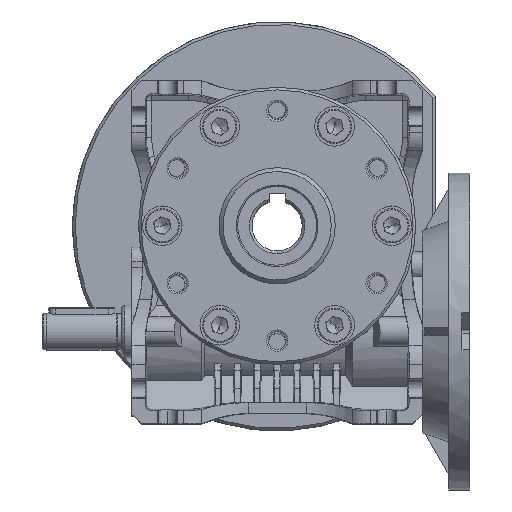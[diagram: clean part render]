
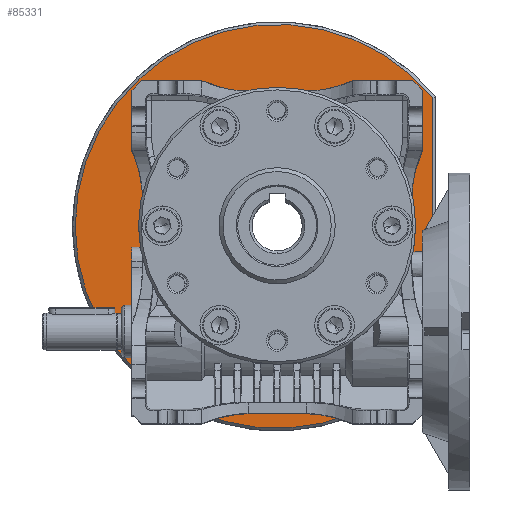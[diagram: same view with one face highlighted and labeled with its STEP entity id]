
A CAD part, top view. The second image highlights one B-rep face of the part: STEP entity #85331.
In plain terms, the highlighted planar face has unit normal (0, 0, 1).
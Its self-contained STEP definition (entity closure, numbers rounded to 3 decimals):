
#2236 = CARTESIAN_POINT ( 'NONE',  ( 45.962, -45.962, -61.5 ) ) ;
#2903 = ORIENTED_EDGE ( 'NONE', *, *, #33353, .F. ) ;
#3189 = FACE_BOUND ( 'NONE', #50392, .T. ) ;
#3344 = CARTESIAN_POINT ( 'NONE',  ( -40.462, -45.962, -61.5 ) ) ;
#3696 = FACE_BOUND ( 'NONE', #87912, .T. ) ;
#4250 = CARTESIAN_POINT ( 'NONE',  ( 0., 0., -61.5 ) ) ;
#4837 = CIRCLE ( 'NONE', #33090, 5.5 ) ;
#5688 = EDGE_CURVE ( 'NONE', #82375, #24871, #89798, .T. ) ;
#6416 = CARTESIAN_POINT ( 'NONE',  ( 59., 0., -61.5 ) ) ;
#8009 = DIRECTION ( 'NONE',  ( 1., 0., 0. ) ) ;
#9746 = EDGE_CURVE ( 'NONE', #27869, #50925, #66435, .T. ) ;
#10125 = DIRECTION ( 'NONE',  ( 0., 0., -1. ) ) ;
#10131 = FACE_BOUND ( 'NONE', #74501, .T. ) ;
#13507 = ORIENTED_EDGE ( 'NONE', *, *, #40253, .F. ) ;
#15421 = DIRECTION ( 'NONE',  ( 1., 0., 0. ) ) ;
#17474 = CIRCLE ( 'NONE', #70952, 5.5 ) ;
#19244 = CIRCLE ( 'NONE', #30306, 5.5 ) ;
#20087 = VERTEX_POINT ( 'NONE', #21977 ) ;
#20212 = DIRECTION ( 'NONE',  ( 0., 0., -1. ) ) ;
#20845 = DIRECTION ( 'NONE',  ( 0., 0., 1. ) ) ;
#20999 = ORIENTED_EDGE ( 'NONE', *, *, #54059, .T. ) ;
#21184 = CARTESIAN_POINT ( 'NONE',  ( -45.962, 45.962, -61.5 ) ) ;
#21977 = CARTESIAN_POINT ( 'NONE',  ( 52.5, 0., -61.5 ) ) ;
#22664 = DIRECTION ( 'NONE',  ( 1., 0., 0. ) ) ;
#23632 = EDGE_CURVE ( 'NONE', #66330, #27942, #17474, .T. ) ;
#24099 = VERTEX_POINT ( 'NONE', #28008 ) ;
#24871 = VERTEX_POINT ( 'NONE', #86902 ) ;
#25437 = DIRECTION ( 'NONE',  ( 0., 0., -1. ) ) ;
#26580 = ORIENTED_EDGE ( 'NONE', *, *, #28334, .T. ) ;
#27021 = AXIS2_PLACEMENT_3D ( 'NONE', #28768, #73517, #15421 ) ;
#27869 = VERTEX_POINT ( 'NONE', #79220 ) ;
#27942 = VERTEX_POINT ( 'NONE', #46190 ) ;
#28008 = CARTESIAN_POINT ( 'NONE',  ( -52.5, 0., -61.5 ) ) ;
#28100 = DIRECTION ( 'NONE',  ( 1., 0., 0. ) ) ;
#28312 = CARTESIAN_POINT ( 'NONE',  ( -51.462, 45.962, -61.5 ) ) ;
#28334 = EDGE_CURVE ( 'NONE', #50925, #27869, #66280, .T. ) ;
#28768 = CARTESIAN_POINT ( 'NONE',  ( 0., 0., -61.5 ) ) ;
#30248 = AXIS2_PLACEMENT_3D ( 'NONE', #89126, #20212, #42383 ) ;
#30306 = AXIS2_PLACEMENT_3D ( 'NONE', #57684, #42443, #94138 ) ;
#32274 = DIRECTION ( 'NONE',  ( 1., 0., 0. ) ) ;
#32356 = CARTESIAN_POINT ( 'NONE',  ( 45.962, 45.962, -61.5 ) ) ;
#32961 = CARTESIAN_POINT ( 'NONE',  ( 0., 0., -61.5 ) ) ;
#33090 = AXIS2_PLACEMENT_3D ( 'NONE', #21184, #95525, #22664 ) ;
#33353 = EDGE_CURVE ( 'NONE', #24099, #20087, #52014, .T. ) ;
#33724 = FACE_BOUND ( 'NONE', #56718, .T. ) ;
#34279 = DIRECTION ( 'NONE',  ( 0., 0., 1. ) ) ;
#34323 = CARTESIAN_POINT ( 'NONE',  ( 40.462, 45.962, -61.5 ) ) ;
#34771 = AXIS2_PLACEMENT_3D ( 'NONE', #75425, #20845, #8009 ) ;
#34786 = AXIS2_PLACEMENT_3D ( 'NONE', #51972, #60811, #96814 ) ;
#35206 = VERTEX_POINT ( 'NONE', #34323 ) ;
#36449 = LINE ( 'NONE', #6416, #95228 ) ;
#37054 = VERTEX_POINT ( 'NONE', #39093 ) ;
#37513 = ORIENTED_EDGE ( 'NONE', *, *, #9746, .T. ) ;
#39093 = CARTESIAN_POINT ( 'NONE',  ( 59., 48.695, -61.5 ) ) ;
#40138 = DIRECTION ( 'NONE',  ( 1., 0., 0. ) ) ;
#40253 = EDGE_CURVE ( 'NONE', #20087, #24099, #94810, .T. ) ;
#40949 = CIRCLE ( 'NONE', #81830, 5.5 ) ;
#41412 = EDGE_LOOP ( 'NONE', ( #48098, #75204 ) ) ;
#42383 = DIRECTION ( 'NONE',  ( 1., 0., 0. ) ) ;
#42443 = DIRECTION ( 'NONE',  ( 0., 0., -1. ) ) ;
#44836 = DIRECTION ( 'NONE',  ( 0., 0., -1. ) ) ;
#45006 = CIRCLE ( 'NONE', #57560, 5.5 ) ;
#46190 = CARTESIAN_POINT ( 'NONE',  ( 40.462, -45.962, -61.5 ) ) ;
#46546 = AXIS2_PLACEMENT_3D ( 'NONE', #32356, #25437, #62837 ) ;
#48098 = ORIENTED_EDGE ( 'NONE', *, *, #72596, .T. ) ;
#48386 = CARTESIAN_POINT ( 'NONE',  ( 45.962, -45.962, -61.5 ) ) ;
#48964 = CARTESIAN_POINT ( 'NONE',  ( 0., 0., -61.5 ) ) ;
#49837 = DIRECTION ( 'NONE',  ( 0., 0., -1. ) ) ;
#50392 = EDGE_LOOP ( 'NONE', ( #20999, #84810 ) ) ;
#50925 = VERTEX_POINT ( 'NONE', #3344 ) ;
#51972 = CARTESIAN_POINT ( 'NONE',  ( -45.962, -45.962, -61.5 ) ) ;
#52014 = CIRCLE ( 'NONE', #61432, 52.5 ) ;
#54059 = EDGE_CURVE ( 'NONE', #62409, #91254, #19244, .T. ) ;
#54403 = DIRECTION ( 'NONE',  ( 0., 0., 1. ) ) ;
#54989 = CARTESIAN_POINT ( 'NONE',  ( 51.462, -45.962, -61.5 ) ) ;
#56718 = EDGE_LOOP ( 'NONE', ( #13507, #2903 ) ) ;
#56817 = EDGE_CURVE ( 'NONE', #24871, #37054, #36449, .T. ) ;
#57560 = AXIS2_PLACEMENT_3D ( 'NONE', #65992, #44836, #28100 ) ;
#57684 = CARTESIAN_POINT ( 'NONE',  ( -45.962, 45.962, -61.5 ) ) ;
#60811 = DIRECTION ( 'NONE',  ( 0., 0., -1. ) ) ;
#61432 = AXIS2_PLACEMENT_3D ( 'NONE', #32961, #76763, #61517 ) ;
#61517 = DIRECTION ( 'NONE',  ( 1., 0., 0. ) ) ;
#61684 = ORIENTED_EDGE ( 'NONE', *, *, #89312, .T. ) ;
#62409 = VERTEX_POINT ( 'NONE', #28312 ) ;
#62837 = DIRECTION ( 'NONE',  ( 1., 0., 0. ) ) ;
#63738 = PLANE ( 'NONE',  #67998 ) ;
#64296 = DIRECTION ( 'NONE',  ( 1., 0., 0. ) ) ;
#65992 = CARTESIAN_POINT ( 'NONE',  ( 45.962, 45.962, -61.5 ) ) ;
#66190 = ORIENTED_EDGE ( 'NONE', *, *, #5688, .T. ) ;
#66280 = CIRCLE ( 'NONE', #34786, 5.5 ) ;
#66330 = VERTEX_POINT ( 'NONE', #54989 ) ;
#66435 = CIRCLE ( 'NONE', #30248, 5.5 ) ;
#67998 = AXIS2_PLACEMENT_3D ( 'NONE', #48964, #54403, #40138 ) ;
#69463 = CIRCLE ( 'NONE', #27021, 76.5 ) ;
#70952 = AXIS2_PLACEMENT_3D ( 'NONE', #48386, #49837, #87295 ) ;
#71218 = EDGE_LOOP ( 'NONE', ( #85739, #66190, #80183 ) ) ;
#72205 = CARTESIAN_POINT ( 'NONE',  ( -40.462, 45.962, -61.5 ) ) ;
#72596 = EDGE_CURVE ( 'NONE', #27942, #66330, #40949, .T. ) ;
#73517 = DIRECTION ( 'NONE',  ( 0., 0., 1. ) ) ;
#74147 = EDGE_CURVE ( 'NONE', #37054, #82375, #69463, .T. ) ;
#74501 = EDGE_LOOP ( 'NONE', ( #61684, #87529 ) ) ;
#75204 = ORIENTED_EDGE ( 'NONE', *, *, #23632, .T. ) ;
#75425 = CARTESIAN_POINT ( 'NONE',  ( 0., 0., -61.5 ) ) ;
#76763 = DIRECTION ( 'NONE',  ( 0., 0., 1. ) ) ;
#79220 = CARTESIAN_POINT ( 'NONE',  ( -51.462, -45.962, -61.5 ) ) ;
#79555 = CIRCLE ( 'NONE', #46546, 5.5 ) ;
#80183 = ORIENTED_EDGE ( 'NONE', *, *, #56817, .T. ) ;
#81566 = CARTESIAN_POINT ( 'NONE',  ( 51.462, 45.962, -61.5 ) ) ;
#81830 = AXIS2_PLACEMENT_3D ( 'NONE', #2236, #10125, #32274 ) ;
#82375 = VERTEX_POINT ( 'NONE', #86604 ) ;
#83772 = AXIS2_PLACEMENT_3D ( 'NONE', #4250, #34279, #64296 ) ;
#84810 = ORIENTED_EDGE ( 'NONE', *, *, #93618, .T. ) ;
#85331 = ADVANCED_FACE ( 'NONE', ( #33724, #94245, #3696, #3189, #10131, #93297 ), #63738, .T. ) ;
#85739 = ORIENTED_EDGE ( 'NONE', *, *, #74147, .T. ) ;
#86604 = CARTESIAN_POINT ( 'NONE',  ( -76.5, 0., -61.5 ) ) ;
#86902 = CARTESIAN_POINT ( 'NONE',  ( 59., -48.695, -61.5 ) ) ;
#87295 = DIRECTION ( 'NONE',  ( 1., 0., 0. ) ) ;
#87529 = ORIENTED_EDGE ( 'NONE', *, *, #88752, .T. ) ;
#87912 = EDGE_LOOP ( 'NONE', ( #37513, #26580 ) ) ;
#88752 = EDGE_CURVE ( 'NONE', #92463, #35206, #79555, .T. ) ;
#89126 = CARTESIAN_POINT ( 'NONE',  ( -45.962, -45.962, -61.5 ) ) ;
#89312 = EDGE_CURVE ( 'NONE', #35206, #92463, #45006, .T. ) ;
#89593 = DIRECTION ( 'NONE',  ( 0., 1., 0. ) ) ;
#89798 = CIRCLE ( 'NONE', #34771, 76.5 ) ;
#91254 = VERTEX_POINT ( 'NONE', #72205 ) ;
#92463 = VERTEX_POINT ( 'NONE', #81566 ) ;
#93297 = FACE_OUTER_BOUND ( 'NONE', #71218, .T. ) ;
#93618 = EDGE_CURVE ( 'NONE', #91254, #62409, #4837, .T. ) ;
#94138 = DIRECTION ( 'NONE',  ( 1., 0., 0. ) ) ;
#94245 = FACE_BOUND ( 'NONE', #41412, .T. ) ;
#94810 = CIRCLE ( 'NONE', #83772, 52.5 ) ;
#95228 = VECTOR ( 'NONE', #89593, 1000. ) ;
#95525 = DIRECTION ( 'NONE',  ( 0., 0., -1. ) ) ;
#96814 = DIRECTION ( 'NONE',  ( 1., 0., 0. ) ) ;
